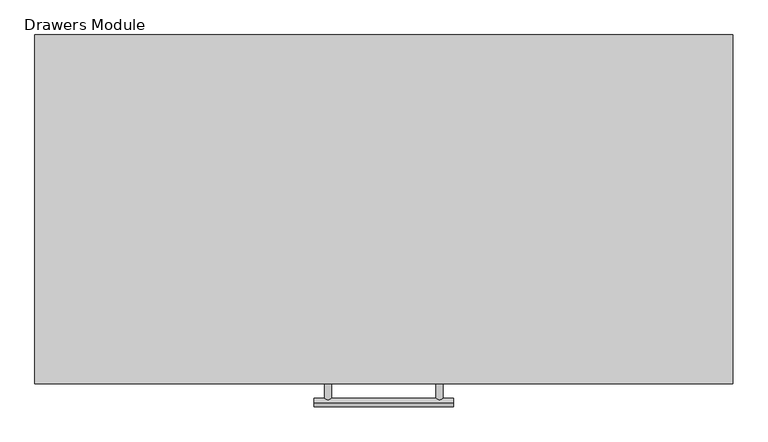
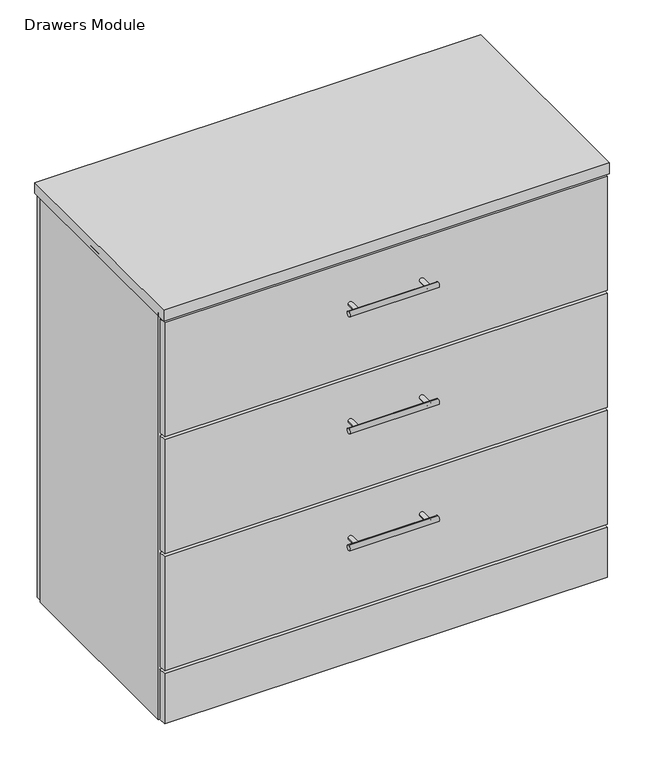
"""IFC4 building model written with IfcOpenShell, lengths in millimetres: furniture geometry, Furniture_Storage_Spacestor_SignatureStoragewall : Drawers Module."""

import ifcopenshell
import ifcopenshell.guid

model = None  # the IFC model being written
_history = None  # IfcOwnerHistory: only IFC2X3 demands one
_inside = {}  # id of a spatial element -> (the spatial element, [elements in it])
_under = {}  # id of a project, library or spatial element -> (it, [spatial elements below it])
_declared = {}  # id of a project -> (the project, [libraries it declares])
_typed = {}  # id of a type object -> (the type object, [elements of that type])
_made_of = {}  # id of a material, layer set ... -> (it, [elements and type objects made of it])


def new_model(schema):
    """Start an empty IFC model of exactly this schema.

    Asked for "IFC4X3", IfcOpenShell would pick the latest addendum, in which some entities
    have other attributes; the version numbers below select the first issue.
    IFC2X3 requires an IfcOwnerHistory on every rooted entity: one is made here for all.
    """
    global model, _history
    if schema == "IFC4X3":
        model = ifcopenshell.file(schema_version=(4, 3, 0, 0))
    else:
        model = ifcopenshell.file(schema=schema)
    _inside.clear()
    _under.clear()
    _declared.clear()
    _typed.clear()
    _made_of.clear()
    _history = None
    if model.schema == "IFC2X3":
        org = make("IfcOrganization", Name="unknown")
        user = make(
            "IfcPersonAndOrganization",
            ThePerson=make("IfcPerson", FamilyName="unknown"),
            TheOrganization=org,
        )
        app = make(
            "IfcApplication",
            ApplicationDeveloper=org,
            Version="unknown",
            ApplicationFullName="unknown",
            ApplicationIdentifier="unknown",
        )
        _history = make(
            "IfcOwnerHistory",
            OwningUser=user,
            OwningApplication=app,
            ChangeAction="ADDED",
            CreationDate=0,
        )
    return model


def make(cls, **values):
    """One entity of the class cls with the attributes given. An attribute that is None is left unset."""
    return model.create_entity(
        cls, **{name: value for name, value in values.items() if value is not None}
    )


def rooted(cls, **values):
    """An entity with a GlobalId (a new one), such as an element, a storey or a relation."""
    return make(cls, GlobalId=ifcopenshell.guid.new(), OwnerHistory=_history, **values)


def si_unit(unit_type, name, prefix=None):
    """IfcSIUnit, for example si_unit("LENGTHUNIT", "METRE", prefix="MILLI")."""
    return make("IfcSIUnit", UnitType=unit_type, Prefix=prefix, Name=name)


def assignment(units):
    """IfcUnitAssignment: the units of a project."""
    return None if units is None else make("IfcUnitAssignment", Units=units)


def point(xyz):
    """IfcCartesianPoint."""
    return None if xyz is None else make("IfcCartesianPoint", Coordinates=xyz)


def direction(xyz):
    """IfcDirection."""
    return None if xyz is None else make("IfcDirection", DirectionRatios=xyz)


def frame(location, z_axis=None, x_axis=None):
    """IfcAxis2Placement3D, a coordinate frame: its origin and axes. An axis left out is left unset."""
    return make(
        "IfcAxis2Placement3D",
        Location=point(location),
        Axis=direction(z_axis),
        RefDirection=direction(x_axis),
    )


def frame_2d(location, x_axis=None):
    """IfcAxis2Placement2D, a coordinate frame in the plane: its origin and x axis."""
    return make(
        "IfcAxis2Placement2D", Location=point(location), RefDirection=direction(x_axis)
    )


def origin():
    """The frame at (0, 0, 0) with its axes left unset."""
    return frame((0.0, 0.0, 0.0))


def origin_with_axes():
    """The frame at (0, 0, 0) with the z axis (0, 0, 1) and the x axis (1, 0, 0) written out."""
    return frame((0.0, 0.0, 0.0), z_axis=(0.0, 0.0, 1.0), x_axis=(1.0, 0.0, 0.0))


def place(relative_to, where):
    """IfcLocalPlacement: puts the frame where relative to a parent placement (None: the world)."""
    return make(
        "IfcLocalPlacement", PlacementRelTo=relative_to, RelativePlacement=where
    )


def context(
    kind, dimensions, precision=None, world=None, true_north=None, identifier=None
):
    """IfcGeometricRepresentationContext, for example the 3D "Model" context."""
    return make(
        "IfcGeometricRepresentationContext",
        ContextIdentifier=identifier,
        ContextType=kind,
        CoordinateSpaceDimension=dimensions,
        Precision=precision,
        WorldCoordinateSystem=world,
        TrueNorth=true_north,
    )


def project(units=None, contexts=None):
    """IfcProject with its units and contexts."""
    return rooted(
        "IfcProject",
        Name="project",
        RepresentationContexts=contexts,
        UnitsInContext=assignment(units),
    )


def spatial(cls, under=None, at=None, **own):
    """A site, building, storey or space (cls), placed at a placement, below another one or the project."""
    s = rooted(cls, ObjectPlacement=at, **own)
    if under is not None:
        _under.setdefault(under.id(), (under, []))[1].append(s)
    return s


def polyline(points):
    """IfcPolyline through the points."""
    return make("IfcPolyline", Points=[point(p) for p in points])


def circle_curve(where, radius):
    """IfcCircle in the frame where."""
    return make("IfcCircle", Position=where, Radius=radius)


def trimmed(basis, trim1, trim2, sense, master):
    """IfcTrimmedCurve: the piece of a basis curve between two trims."""
    return make(
        "IfcTrimmedCurve",
        BasisCurve=basis,
        Trim1=trim1,
        Trim2=trim2,
        SenseAgreement=sense,
        MasterRepresentation=master,
    )


def segment(curve, same_sense, transition):
    """IfcCompositeCurveSegment."""
    return make(
        "IfcCompositeCurveSegment",
        Transition=transition,
        SameSense=same_sense,
        ParentCurve=curve,
    )


def composite_curve(segments, self_intersect=None):
    """IfcCompositeCurve: segments joined end to end."""
    return make("IfcCompositeCurve", Segments=segments, SelfIntersect=self_intersect)


def outline(outer, holes=None, kind="AREA"):
    """IfcArbitraryClosedProfileDef: a profile drawn as a closed curve; with holes, ...WithVoids."""
    if holes is None:
        return make("IfcArbitraryClosedProfileDef", ProfileType=kind, OuterCurve=outer)
    return make(
        "IfcArbitraryProfileDefWithVoids",
        ProfileType=kind,
        OuterCurve=outer,
        InnerCurves=holes,
    )


def extrude(swept, where, along, depth):
    """IfcExtrudedAreaSolid: the profile swept, set in the frame where, extruded along a direction by depth."""
    return make(
        "IfcExtrudedAreaSolid",
        SweptArea=swept,
        Position=where,
        ExtrudedDirection=direction(along),
        Depth=depth,
    )


def shape(context_of_items, identifier, shape_type, items):
    """IfcShapeRepresentation: the items that make up one representation, for example the "Body"."""
    return make(
        "IfcShapeRepresentation",
        ContextOfItems=context_of_items,
        RepresentationIdentifier=identifier,
        RepresentationType=shape_type,
        Items=items,
    )


def source(mapping_origin, context_of_items, identifier, shape_type, items):
    """IfcRepresentationMap: a shape defined once, which mapped items show again and again."""
    return make(
        "IfcRepresentationMap",
        MappingOrigin=mapping_origin,
        MappedRepresentation=shape(context_of_items, identifier, shape_type, items),
    )


def transform(
    local_origin,
    x_axis=None,
    y_axis=None,
    z_axis=None,
    scale=None,
    scale2=None,
    scale3=None,
    uniform=True,
):
    """IfcCartesianTransformationOperator3D, or its non-uniform kind. x_axis, y_axis, z_axis: its Axis1, 2, 3."""
    if uniform:
        return make(
            "IfcCartesianTransformationOperator3D",
            Axis1=direction(x_axis),
            Axis2=direction(y_axis),
            LocalOrigin=point(local_origin),
            Scale=scale,
            Axis3=direction(z_axis),
        )
    return make(
        "IfcCartesianTransformationOperator3DnonUniform",
        Axis1=direction(x_axis),
        Axis2=direction(y_axis),
        LocalOrigin=point(local_origin),
        Scale=scale,
        Axis3=direction(z_axis),
        Scale2=scale2,
        Scale3=scale3,
    )


def mapped(mapping_source, mapping_target):
    """IfcMappedItem: shows the shape of a source again, moved by a transform."""
    return make(
        "IfcMappedItem", MappingSource=mapping_source, MappingTarget=mapping_target
    )


def made_of(thing, what):
    """Note that an element or type object is made of a material, layer set ...; save() writes the relation."""
    if what is not None:
        _made_of.setdefault(what.id(), (what, []))[1].append(thing)
    return thing


def element(
    cls,
    number,
    at=None,
    inside=None,
    cuts=None,
    type_object=None,
    material=None,
    context=None,
    identifier="Body",
    shape_type=None,
    held_by="IfcProductDefinitionShape",
    body=None,
    shapes=None,
    **own,
):
    """One element of the class cls, such as IfcWall. Its Tag is "e" and its number.

    at: its placement. inside: the storey or other place that contains it. cuts: it is an
    opening in that element (IfcRelVoidsElement). A single representation is given by context,
    identifier, shape_type and body (its items); several are given by shapes. held_by: the class
    of the entity that holds the representations. save() writes the other relations.
    """
    e = rooted(cls, Tag="e%d" % number, ObjectPlacement=at, **own)
    if body is not None:
        shapes = [shape(context, identifier, shape_type, body)]
    if shapes is not None:
        e.Representation = make(held_by, Representations=shapes)
    if inside is not None:
        _inside.setdefault(inside.id(), (inside, []))[1].append(e)
    if cuts is not None:
        rooted(
            "IfcRelVoidsElement", RelatingBuildingElement=cuts, RelatedOpeningElement=e
        )
    if type_object is not None:
        _typed.setdefault(type_object.id(), (type_object, []))[1].append(e)
    return made_of(e, material)


def aggregate(whole, parts):
    """IfcRelAggregates: a whole, such as a stair, and the parts it consists of."""
    return rooted("IfcRelAggregates", RelatingObject=whole, RelatedObjects=parts)


def save(model, path):
    """Write the relations noted so far, then the file.

    IfcRelAggregates (storeys below a building ...), IfcRelContainedInSpatialStructure (elements
    in a storey), IfcRelDefinesByType, IfcRelAssociatesMaterial and IfcRelDeclares: one each for
    every whole, place, type object, material and project.
    """
    for whole, parts in _under.values():
        aggregate(whole, parts)
    for where, things in _inside.values():
        rooted(
            "IfcRelContainedInSpatialStructure",
            RelatedElements=things,
            RelatingStructure=where,
        )
    for kind, things in _typed.values():
        rooted("IfcRelDefinesByType", RelatedObjects=things, RelatingType=kind)
    for what, things in _made_of.values():
        rooted("IfcRelAssociatesMaterial", RelatedObjects=things, RelatingMaterial=what)
    for by, libraries in _declared.values():
        rooted("IfcRelDeclares", RelatingContext=by, RelatedDefinitions=libraries)
    model.write(path)


def drawers_module_4158d031(model_context):
    return source(origin(), model_context, "Body", "SweptSolid", [
        extrude(outline(polyline([(996.5, 459.0), (3.5, 459.0), (3.5, 477.0), (996.5, 477.0), (996.5, 459.0)])), origin_with_axes(), (0.0, 0.0, 1.0), 950.0),
        extrude(outline(polyline([(996.5, -18.0), (3.5, -18.0), (3.5, 0.0), (996.5, 0.0), (996.5, -18.0)])), origin_with_axes(), (0.0, 0.0, 1.0), 118.0),
        extrude(outline(polyline([(1000.0, -20.5), (0.0, -20.5), (0.0, 479.5), (1000.0, 479.5), (1000.0, -20.5)])), frame((0.0, 0.0, 957.0), z_axis=(0.0, 0.0, 1.0), x_axis=(1.0, 0.0, 0.0)), (0.0, 0.0, 1.0), 25.5),
        extrude(outline(polyline([(1000.0, 0.0), (989.0, 0.0), (989.0, 459.0), (1000.0, 459.0), (1000.0, 0.0)])), origin_with_axes(), (0.0, 0.0, 1.0), 964.5),
        extrude(outline(polyline([(11.0, 0.0), (0.0, 0.0), (0.0, 459.0), (11.0, 459.0), (11.0, 0.0)])), origin_with_axes(), (0.0, 0.0, 1.0), 964.5),
        extrude(outline(polyline([(989.0, 0.0), (11.0, 0.0), (11.0, 459.0), (989.0, 459.0), (989.0, 0.0)])), frame((0.0, 0.0, 110.5), z_axis=(0.0, 0.0, 1.0), x_axis=(1.0, 0.0, 0.0)), (0.0, 0.0, 1.0), 22.0),
        extrude(outline(polyline([(989.0, 0.0), (11.0, 0.0), (11.0, 459.0), (989.0, 459.0), (989.0, 0.0)])), frame((0.0, 0.0, 942.0), z_axis=(0.0, 0.0, 1.0), x_axis=(1.0, 0.0, 0.0)), (0.0, 0.0, 1.0), 22.0),
        extrude(outline(polyline([(989.0, 0.0), (11.0, 0.0), (11.0, 459.0), (989.0, 459.0), (989.0, 0.0)])), frame((0.0, 0.0, 942.5), z_axis=(0.0, 0.0, 1.0), x_axis=(1.0, 0.0, 0.0)), (0.0, 0.0, 1.0), 22.0),
        extrude(outline(composite_curve([segment(trimmed(circle_curve(frame_2d((-47.0, 295.3333333)), 6.0), [point((-47.0, 301.3333333))], [point((-47.0, 289.3333333))], False, "CARTESIAN"), True, "CONTINUOUS"), segment(trimmed(circle_curve(frame_2d((-47.0, 295.3333333)), 6.0), [point((-47.0, 289.3333333))], [point((-47.0, 301.3333333))], False, "CARTESIAN"), True, "CONTINUOUS")], self_intersect=False)), frame((400.0, 0.0, 0.0), z_axis=(1.0, 0.0, 0.0), x_axis=(0.0, 1.0, 0.0)), (0.0, 0.0, 1.0), 200.0),
        extrude(outline(composite_curve([segment(trimmed(circle_curve(frame_2d((295.3333333, 580.0)), 5.0), [point((295.3333333, 585.0))], [point((295.3333333, 575.0))], False, "CARTESIAN"), True, "CONTINUOUS"), segment(trimmed(circle_curve(frame_2d((295.3333333, 580.0)), 5.0), [point((295.3333333, 575.0))], [point((295.3333333, 585.0))], False, "CARTESIAN"), True, "CONTINUOUS")], self_intersect=False)), frame((0.0, -47.0, 0.0), z_axis=(0.0, 1.0, 0.0), x_axis=(0.0, 0.0, 1.0)), (0.0, 0.0, 1.0), 29.0),
        extrude(outline(composite_curve([segment(trimmed(circle_curve(frame_2d((295.3333333, 420.0)), 5.0), [point((295.3333333, 415.0))], [point((295.3333333, 425.0))], False, "CARTESIAN"), True, "CONTINUOUS"), segment(trimmed(circle_curve(frame_2d((295.3333333, 420.0)), 5.0), [point((295.3333333, 425.0))], [point((295.3333333, 415.0))], False, "CARTESIAN"), True, "CONTINUOUS")], self_intersect=False)), frame((0.0, -47.0, 0.0), z_axis=(0.0, 1.0, 0.0), x_axis=(0.0, 0.0, 1.0)), (0.0, 0.0, 1.0), 29.0),
        extrude(outline(composite_curve([segment(trimmed(circle_curve(frame_2d((-47.0, 572.6666667)), 6.0), [point((-47.0, 578.6666667))], [point((-47.0, 566.6666667))], False, "CARTESIAN"), True, "CONTINUOUS"), segment(trimmed(circle_curve(frame_2d((-47.0, 572.6666667)), 6.0), [point((-47.0, 566.6666667))], [point((-47.0, 578.6666667))], False, "CARTESIAN"), True, "CONTINUOUS")], self_intersect=False)), frame((400.0, 0.0, 0.0), z_axis=(1.0, 0.0, 0.0), x_axis=(0.0, 1.0, 0.0)), (0.0, 0.0, 1.0), 200.0),
        extrude(outline(composite_curve([segment(trimmed(circle_curve(frame_2d((572.6666667, 580.0)), 5.0), [point((572.6666667, 585.0))], [point((572.6666667, 575.0))], False, "CARTESIAN"), True, "CONTINUOUS"), segment(trimmed(circle_curve(frame_2d((572.6666667, 580.0)), 5.0), [point((572.6666667, 575.0))], [point((572.6666667, 585.0))], False, "CARTESIAN"), True, "CONTINUOUS")], self_intersect=False)), frame((0.0, -47.0, 0.0), z_axis=(0.0, 1.0, 0.0), x_axis=(0.0, 0.0, 1.0)), (0.0, 0.0, 1.0), 29.0),
        extrude(outline(composite_curve([segment(trimmed(circle_curve(frame_2d((572.6666667, 420.0)), 5.0), [point((572.6666667, 415.0))], [point((572.6666667, 425.0))], False, "CARTESIAN"), True, "CONTINUOUS"), segment(trimmed(circle_curve(frame_2d((572.6666667, 420.0)), 5.0), [point((572.6666667, 425.0))], [point((572.6666667, 415.0))], False, "CARTESIAN"), True, "CONTINUOUS")], self_intersect=False)), frame((0.0, -47.0, 0.0), z_axis=(0.0, 1.0, 0.0), x_axis=(0.0, 0.0, 1.0)), (0.0, 0.0, 1.0), 29.0),
        extrude(outline(composite_curve([segment(trimmed(circle_curve(frame_2d((-47.0, 850.0)), 6.0), [point((-47.0, 856.0))], [point((-47.0, 844.0))], False, "CARTESIAN"), True, "CONTINUOUS"), segment(trimmed(circle_curve(frame_2d((-47.0, 850.0)), 6.0), [point((-47.0, 844.0))], [point((-47.0, 856.0))], False, "CARTESIAN"), True, "CONTINUOUS")], self_intersect=False)), frame((400.0, 0.0, 0.0), z_axis=(1.0, 0.0, 0.0), x_axis=(0.0, 1.0, 0.0)), (0.0, 0.0, 1.0), 200.0),
        extrude(outline(composite_curve([segment(trimmed(circle_curve(frame_2d((850.0, 580.0)), 5.0), [point((850.0, 585.0))], [point((850.0, 575.0))], False, "CARTESIAN"), True, "CONTINUOUS"), segment(trimmed(circle_curve(frame_2d((850.0, 580.0)), 5.0), [point((850.0, 575.0))], [point((850.0, 585.0))], False, "CARTESIAN"), True, "CONTINUOUS")], self_intersect=False)), frame((0.0, -47.0, 0.0), z_axis=(0.0, 1.0, 0.0), x_axis=(0.0, 0.0, 1.0)), (0.0, 0.0, 1.0), 29.0),
        extrude(outline(composite_curve([segment(trimmed(circle_curve(frame_2d((850.0, 420.0)), 5.0), [point((850.0, 415.0))], [point((850.0, 425.0))], False, "CARTESIAN"), True, "CONTINUOUS"), segment(trimmed(circle_curve(frame_2d((850.0, 420.0)), 5.0), [point((850.0, 425.0))], [point((850.0, 415.0))], False, "CARTESIAN"), True, "CONTINUOUS")], self_intersect=False)), frame((0.0, -47.0, 0.0), z_axis=(0.0, 1.0, 0.0), x_axis=(0.0, 0.0, 1.0)), (0.0, 0.0, 1.0), 29.0),
        extrude(outline(polyline([(996.5, -18.0), (3.5, -18.0), (3.5, 0.0), (996.5, 0.0), (996.5, -18.0)])), frame((0.0, 0.0, 679.6666667), z_axis=(0.0, 0.0, 1.0), x_axis=(1.0, 0.0, 0.0)), (0.0, 0.0, 1.0), 270.3333333),
        extrude(outline(polyline([(996.5, -18.0), (3.5, -18.0), (3.5, 0.0), (996.5, 0.0), (996.5, -18.0)])), frame((0.0, 0.0, 402.3333333), z_axis=(0.0, 0.0, 1.0), x_axis=(1.0, 0.0, 0.0)), (0.0, 0.0, 1.0), 270.3333333),
        extrude(outline(polyline([(996.5, -18.0), (3.5, -18.0), (3.5, 0.0), (996.5, 0.0), (996.5, -18.0)])), frame((0.0, 0.0, 125.0), z_axis=(0.0, 0.0, 1.0), x_axis=(1.0, 0.0, 0.0)), (0.0, 0.0, 1.0), 270.3333333),
    ])


if __name__ == "__main__":
    model = new_model("IFC4")
    model_context = context("Model", 3, world=origin())
    ifc_project = project(units=[si_unit("LENGTHUNIT", "METRE", prefix="MILLI")], contexts=[model_context])
    site = spatial("IfcSite", under=ifc_project)
    building = spatial("IfcBuilding", under=site)
    placement = place(None, origin())
    drawers_module_shape = drawers_module_4158d031(model_context)
    element("IfcFurniture", 1, ObjectType="Furniture_Storage_Spacestor_SignatureStoragewall : Drawers Module", at=placement, inside=building, context=model_context, shape_type="MappedRepresentation", body=[
        mapped(drawers_module_shape, transform((0.0, 0.0, 0.0), x_axis=(1.0, 0.0, 0.0), y_axis=(0.0, 1.0, 0.0), z_axis=(0.0, 0.0, 1.0))),
    ])
    save(model, "model.ifc")
